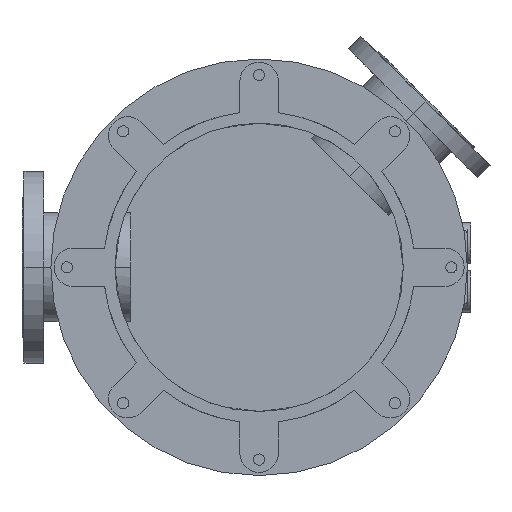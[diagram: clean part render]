
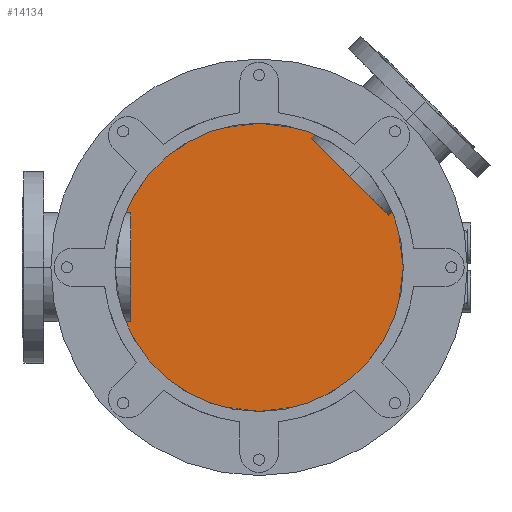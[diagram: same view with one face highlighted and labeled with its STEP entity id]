
A CAD part, front view. The second image highlights one B-rep face of the part: STEP entity #14134.
In plain terms, the highlighted planar face has unit normal (0, -1, 0).
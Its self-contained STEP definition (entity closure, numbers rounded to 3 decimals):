
#2793=CARTESIAN_POINT('',(0.,1172.,0.));
#2794=DIRECTION('',(0.,-1.,0.));
#2795=DIRECTION('',(0.,0.,1.));
#2796=AXIS2_PLACEMENT_3D('',#2793,#2794,#2795);
#2920=CARTESIAN_POINT('',(0.,1172.,0.));
#2921=DIRECTION('',(0.,-1.,0.));
#2922=DIRECTION('',(0.,0.,-1.));
#2923=AXIS2_PLACEMENT_3D('',#2920,#2921,#2922);
#9167=CARTESIAN_POINT('',(0.,1172.,240.));
#9168=CARTESIAN_POINT('',(0.,1172.,-240.));
#9169=VERTEX_POINT('',#9167);
#9170=VERTEX_POINT('',#9168);
#14124=CARTESIAN_POINT('',(0.,1172.,0.));
#14125=DIRECTION('',(0.,1.,0.));
#14126=DIRECTION('',(0.,0.,-1.));
#14127=AXIS2_PLACEMENT_3D('',#14124,#14125,#14126);
#14128=PLANE('',#14127);
#14129=ORIENTED_EDGE('',*,*,#14108,.F.);
#14131=ORIENTED_EDGE('',*,*,#14130,.F.);
#14132=EDGE_LOOP('',(#14129,#14131));
#14133=FACE_OUTER_BOUND('',#14132,.F.);
#14134=ADVANCED_FACE('',(#14133),#14128,.F.);
#2797=CIRCLE('',#2796,240.);
#2924=CIRCLE('',#2923,240.);
#14108=EDGE_CURVE('',#9169,#9170,#2797,.T.);
#14130=EDGE_CURVE('',#9170,#9169,#2924,.T.);
